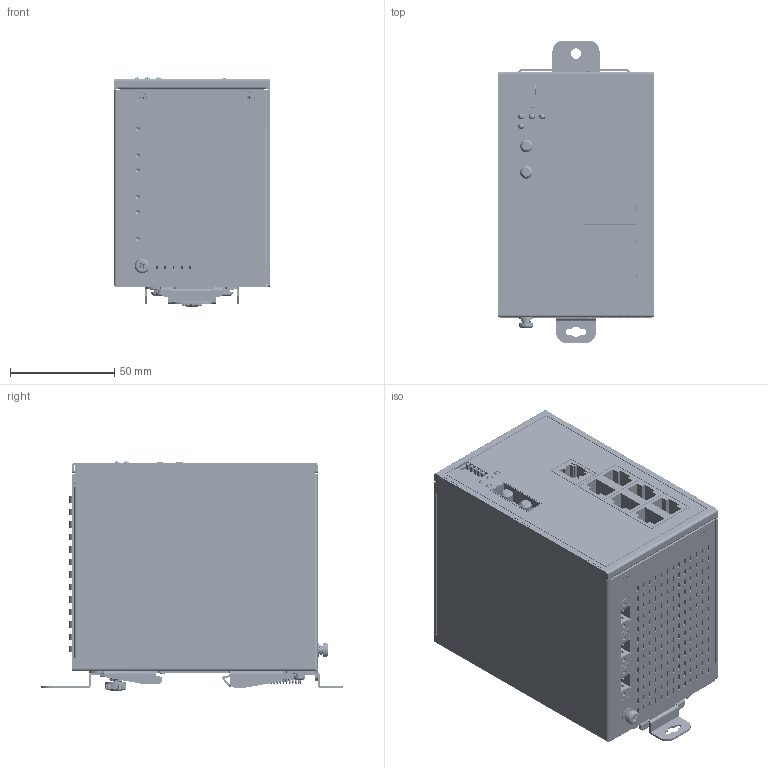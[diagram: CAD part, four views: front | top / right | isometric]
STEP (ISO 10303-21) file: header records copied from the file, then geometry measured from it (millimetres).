
FILE_DESCRIPTION((''),'2;1');
FILE_NAME('DVS-008W01-SC01-R_ASM','2014-12-08T',('ANDREW.AS.SUN'),(''),'PRO/ENGINEER BY PARAMETRIC TECHNOLOGY CORPORATION, 2010280','PRO/ENGINEER BY PARAMETRIC TECHNOLOGY CORPORATION, 2010280','');
FILE_SCHEMA(('CONFIG_CONTROL_DESIGN'));
Products named in the file (32): 3991140200_BASE; STUD_M3_0; STUD_M3_0-S; 3991140200_BASE_ASM; 3991140300_COVER; 3991141300_PANEL; PCB-M-8P; STAND_OFF_30; MSD32_MALE; TB293; DIN-SWITCH-5PIN; 1X3_G-G; 1X1_LED; OPT-155B; BOT_PCB_ASSY_DVS-008W01-SC01-R_ASM; PCB-M-16P; MSD232_FEMALE; 307229417C; 307228297C-EM50188GF2NN46PF; TOP_PCB_ASSY_DVS-008W01-SC01-R_ASM; 3205278400_NAMEPLATE; BACK_PLATE_2; SNAP; SPRING; SNAP_2; 46-111-501-1_20100903_; SNAP2_ASM; 3534306500_ME-KIT_ASM; 3105460500; SCREW_M4; 3100320300-SCREW; DVS-008W01-SC01-R_ASM
Assembly tree (52 placements, depth 4):
  DVS-008W01-SC01-R_ASM
    3991140200_BASE_ASM
      3991140200_BASE
      STUD_M3_0  x2
      STUD_M3_0-S  x2
    3991140300_COVER
    3991141300_PANEL
    BOT_PCB_ASSY_DVS-008W01-SC01-R_ASM
      PCB-M-8P
      STAND_OFF_30  x4
      MSD32_MALE
      TB293  x3
      DIN-SWITCH-5PIN
      1X3_G-G
      1X1_LED
      OPT-155B
    TOP_PCB_ASSY_DVS-008W01-SC01-R_ASM
      PCB-M-16P
      MSD232_FEMALE
      307229417C  x3
      307228297C-EM50188GF2NN46PF
    3205278400_NAMEPLATE
    3534306500_ME-KIT_ASM
      BACK_PLATE_2
      SNAP
      SPRING
      SNAP2_ASM
        SNAP_2
        46-111-501-1_20100903_
    3105460500  x10
    SCREW_M4
    3100320300-SCREW  x4
Bounding box: 75 x 145.3 x 110.12 mm (x, y, z)
Volume: 146760.4 mm3; surface area: 221228.2 mm2
Topology: 47 solids, 58 shells, 5040 faces, 12921 edges, 8139 vertices
Faces by surface type: plane 3227, cylinder 1310, bspline 293, cone 150, torus 52, sphere 8
Entity records: 139509 total; most frequent: CARTESIAN_POINT 41319, ORIENTED_EDGE 20349, DIRECTION 19447, EDGE_CURVE 10204, VECTOR 7699, LINE 7699, VERTEX_POINT 6418, AXIS2_PLACEMENT_3D 5874
